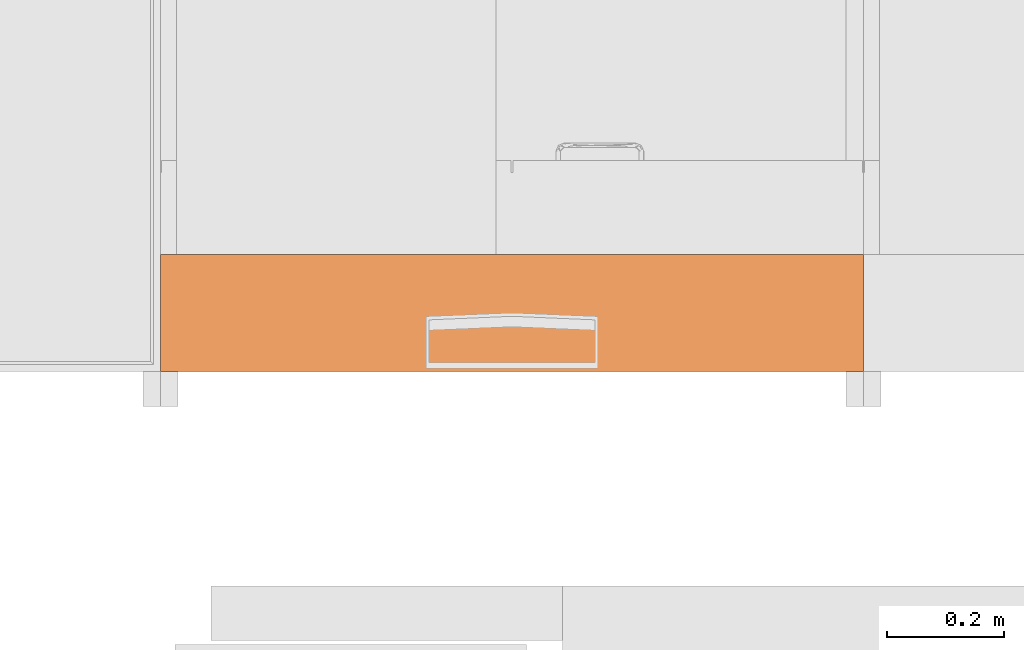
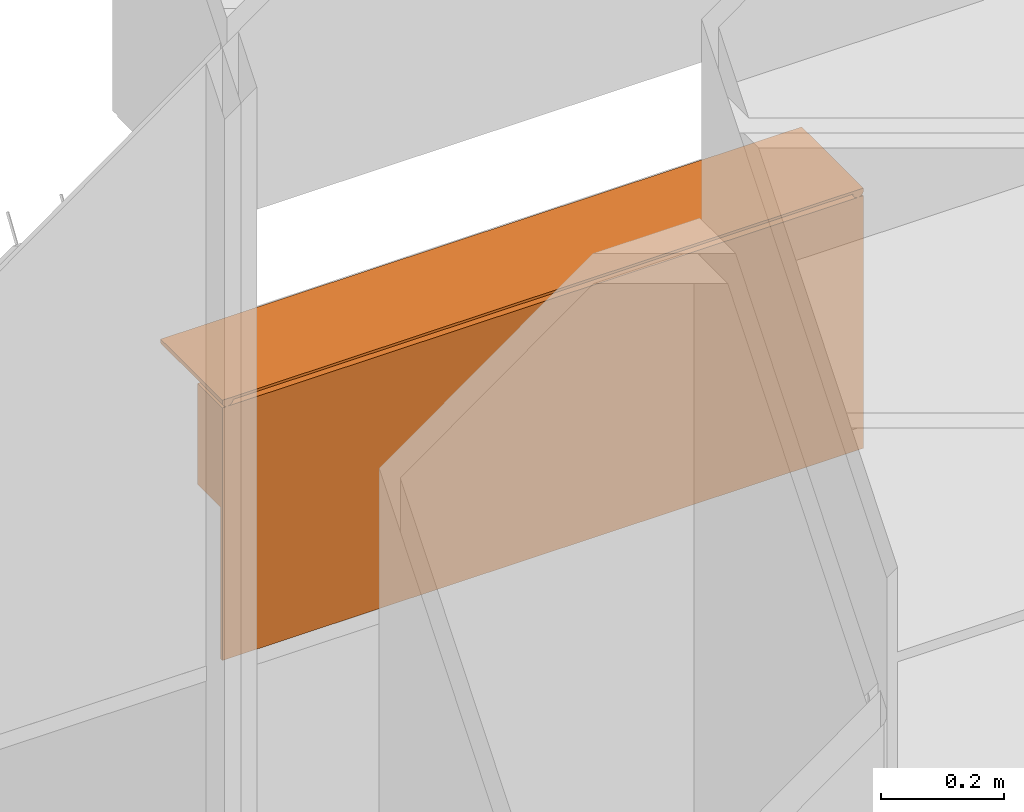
# One storey, part 5 of 32: 1 proxy.
"""IFC2X3 building model written with IfcOpenShell, lengths in metres."""

from ifc_helpers import new_model, entity, si_unit, converted_unit, derived_unit, direction, frame, frame_2d, origin, origin_2d_with_axis, place, context, subcontext, project, spatial, polyline, circle_curve, parameter, trimmed, segment, composite_curve, rectangle, outline, extrude, source, transform, mapped, material, material_list, type_object, type_shapes, element, save


model = new_model("IFC2X3")

# Units and contexts
model_context = context("Model", 3, precision=1e-05, world=origin(), true_north=direction((6.12303176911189e-17, 1.0)))
body_context = subcontext(model_context, "Body", "Model", "MODEL_VIEW")
ifc_project = project(units=[si_unit("LENGTHUNIT", "METRE"), si_unit("AREAUNIT", "SQUARE_METRE"), si_unit("VOLUMEUNIT", "CUBIC_METRE"), converted_unit("PLANEANGLEUNIT", "DEGREE", entity("IfcRatioMeasure", 0.0174532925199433), si_unit("PLANEANGLEUNIT", "RADIAN"), dimensions=[0, 0, 0, 0, 0, 0, 0]), si_unit("MASSUNIT", "GRAM", prefix="KILO"), derived_unit("MASSDENSITYUNIT", [(si_unit("MASSUNIT", "GRAM", prefix="KILO"), 1), (si_unit("LENGTHUNIT", "METRE"), -3)]), derived_unit("MOMENTOFINERTIAUNIT", [(si_unit("LENGTHUNIT", "METRE"), 4)]), si_unit("TIMEUNIT", "SECOND"), si_unit("FREQUENCYUNIT", "HERTZ"), si_unit("THERMODYNAMICTEMPERATUREUNIT", "DEGREE_CELSIUS"), derived_unit("THERMALTRANSMITTANCEUNIT", [(si_unit("MASSUNIT", "GRAM", prefix="KILO"), 1), (si_unit("THERMODYNAMICTEMPERATUREUNIT", "KELVIN"), -1), (si_unit("TIMEUNIT", "SECOND"), -3)]), derived_unit("VOLUMETRICFLOWRATEUNIT", [(si_unit("LENGTHUNIT", "METRE"), 3), (si_unit("TIMEUNIT", "SECOND"), -1)]), si_unit("ELECTRICCURRENTUNIT", "AMPERE"), si_unit("ELECTRICVOLTAGEUNIT", "VOLT"), si_unit("POWERUNIT", "WATT"), si_unit("FORCEUNIT", "NEWTON", prefix="KILO"), si_unit("ILLUMINANCEUNIT", "LUX"), si_unit("LUMINOUSFLUXUNIT", "LUMEN"), si_unit("LUMINOUSINTENSITYUNIT", "CANDELA"), derived_unit("USERDEFINED", [(si_unit("MASSUNIT", "GRAM", prefix="KILO"), -1), (si_unit("LENGTHUNIT", "METRE"), -2), (si_unit("TIMEUNIT", "SECOND"), 3), (si_unit("LUMINOUSFLUXUNIT", "LUMEN"), 1)]), derived_unit("LINEARVELOCITYUNIT", [(si_unit("LENGTHUNIT", "METRE"), 1), (si_unit("TIMEUNIT", "SECOND"), -1)]), si_unit("PRESSUREUNIT", "PASCAL"), derived_unit("USERDEFINED", [(si_unit("LENGTHUNIT", "METRE"), -2), (si_unit("MASSUNIT", "GRAM", prefix="KILO"), 1), (si_unit("TIMEUNIT", "SECOND"), -2)]), derived_unit("LINEARFORCEUNIT", [(si_unit("MASSUNIT", "GRAM", prefix="KILO"), 1), (si_unit("LENGTHUNIT", "METRE"), 1), (si_unit("TIMEUNIT", "SECOND"), -2), (si_unit("LENGTHUNIT", "METRE"), -1)]), derived_unit("PLANARFORCEUNIT", [(si_unit("MASSUNIT", "GRAM", prefix="KILO"), 1), (si_unit("LENGTHUNIT", "METRE"), 1), (si_unit("TIMEUNIT", "SECOND"), -2), (si_unit("LENGTHUNIT", "METRE"), -2)])], contexts=[model_context])

# Site, building, storey
site_placement = place(None, origin())
site = spatial("IfcSite", under=ifc_project, at=site_placement, Name="Default", CompositionType="ELEMENT")
building_placement = place(site_placement, origin())
building = spatial("IfcBuilding", under=site, at=building_placement, CompositionType="ELEMENT")
storey_placement = place(building_placement, origin())
storey = spatial("IfcBuildingStorey", under=building, at=storey_placement, Name="00 EG", CompositionType="ELEMENT", Elevation=0.0)

# Proxy
ifc_material_1 = material(Name="dh_Weiß")
ifc_material_2 = material(Name="dh_Glas WHS")
ifc_material_3 = material(Name="dh_Blau")
ifc_material_list_1 = material_list([ifc_material_1, ifc_material_2, ifc_material_3])
ifc_material_list_2 = material_list([ifc_material_2, ifc_material_3, ifc_material_1])
building_element_proxy_type = type_object("IfcBuildingElementProxyType", Name="dh_Medienwand WHA:120 Stehtisch", PredefinedType="NOTDEFINED", material=ifc_material_list_2)
shared_shape = source(origin(), body_context, "Body", "SweptSolid", [
    extrude(outline(composite_curve([segment(trimmed(circle_curve(frame_2d((0.0, 0.0), x_axis=(-1.0, 0.0)), 0.01), [parameter(0.0)], [parameter(180.0)], True, "PARAMETER"), True, "CONTINUOUS"), segment(polyline([(0.01, 0.0), (-0.01, 0.0)]), True, "CONTINUOUS")], self_intersect=False)), frame((-0.589999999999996, 0.1, 1.40999999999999), z_axis=(0.0, -1.0, 0.0), x_axis=(1.0, 0.0, 0.0)), (0.0, 0.0, -1.0), 0.2),
    extrude(outline(composite_curve([segment(trimmed(circle_curve(origin_2d_with_axis(), 0.00999999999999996), [parameter(0.0)], [parameter(180.0)], True, "PARAMETER"), True, "CONTINUOUS"), segment(polyline([(-0.0099999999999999, 0.0), (0.0099999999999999, 0.0)]), True, "CONTINUOUS")], self_intersect=False)), frame((0.590000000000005, 0.1, 1.40999999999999), z_axis=(0.0, 1.0, 0.0), x_axis=(1.0, 0.0, 0.0)), (0.0, 0.0, 1.0), 0.2),
    extrude(rectangle(XDim=1.2, YDim=0.2, at=origin_2d_with_axis()), frame((0.0, 0.2, 1.40999999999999), z_axis=(0.0, 0.0, 1.0), x_axis=(-1.0, 0.0, 0.0)), (0.0, 0.0, 1.0), 0.00499999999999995),
    extrude(rectangle(XDim=0.00500000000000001, YDim=1.2, at=frame_2d((-3.38271077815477e-17, 0.0), x_axis=(1.0, 0.0))), frame((0.0, 0.2975, 0.900000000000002), z_axis=(0.0, 0.0, 1.0), x_axis=(0.0, 1.0, 0.0)), (0.0, 0.0, 1.0), 0.299999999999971),
    extrude(rectangle(XDim=1.2, YDim=0.08, at=frame_2d((0.0, 3.46944695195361e-17), x_axis=(1.0, 0.0))), frame((0.0, 0.26, 1.20000000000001), z_axis=(0.0, 0.0, 1.0), x_axis=(-1.0, 0.0, 0.0)), (0.0, 0.0, 1.0), 0.199999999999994),
])
type_shapes(building_element_proxy_type, [shared_shape])
proxy_placement = place(storey_placement, frame((12.5499999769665, 10.5100000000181, 0.0), z_axis=(0.0, 0.0, 1.0), x_axis=(-1.0, 0.0, 0.0)))
element("IfcBuildingElementProxy", 1, at=proxy_placement, inside=storey, type_object=building_element_proxy_type, material=ifc_material_list_1, Name="dh_Medienwand WHA:120 Stehtisch", ObjectType="dh_Medienwand WHA:120 Stehtisch", context=body_context, shape_type="MappedRepresentation", body=[
    mapped(shared_shape, transform((0.0, 0.0, 0.0), scale=1.0)),
])

save(model, "model.ifc")
